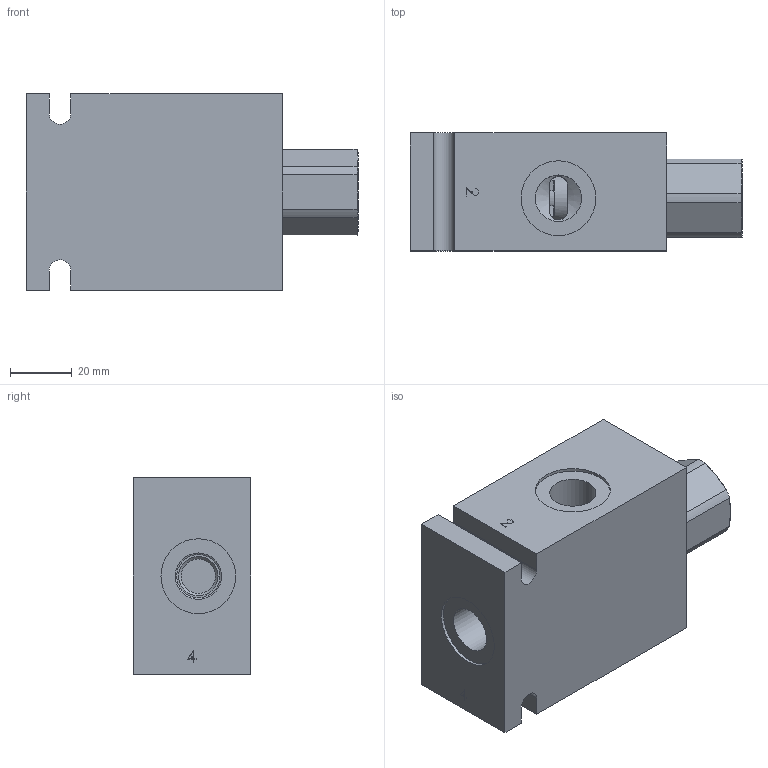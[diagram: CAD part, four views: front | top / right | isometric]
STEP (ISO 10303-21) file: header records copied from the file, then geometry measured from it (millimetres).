
FILE_DESCRIPTION( ( 'Unknown' ), '1' );
FILE_NAME( 'G:/Graphic Design/Graphic Design 2/Data Sheets/PRESSURE CONTROLS/2_STEP/Pressure Compensated Regulator Valves/D-DGPCB00-B4.stp', 'Unknown', ( 'Unknown' ), ( 'Unknown' ), 'PSStep 16.0.42', 'Unknown', ' ' );
FILE_SCHEMA( ( 'AUTOMOTIVE_DESIGN { 1 0 10303 214 1 1 1 1 }' ) );
Length unit declared in the file: millimetre
Products named in the file (14): DGPCB00; DGPCB00-3D Full1; DGPCB00-3D Full2; DGPCB00-3D Full3; DGPCB00-3D Full4; DGPCB00-3D Full5; DGPCB00-3D Full6; DGPCB00-3D Full7; DGPCB00-3D Full8; DGPCB00-3D Full9; DGPCB00-3D Full10; DGPCB00-3D Full11; Assem1; B-DDGB4
Assembly tree (13 placements, depth 3):
  Assem1
    B-DDGB4
    DGPCB00
      DGPCB00-3D Full1
      DGPCB00-3D Full2
      DGPCB00-3D Full3
      DGPCB00-3D Full4
      DGPCB00-3D Full5
      DGPCB00-3D Full6
      DGPCB00-3D Full7
      DGPCB00-3D Full8
      DGPCB00-3D Full9
      DGPCB00-3D Full10
      DGPCB00-3D Full11
Bounding box: 107.35 x 38.1 x 63.5 mm (x, y, z)
Surface area: 40203.3 mm2 (no closed solid volume)
Topology: 0 solids, 332 shells, 332 faces, 1505 edges, 1413 vertices
Faces by surface type: plane 157, cylinder 90, torus 43, cone 42
Full cylindrical faces by diameter (mm): 0.2 x4, 11.11 x1, 12.992 x1, 13.043 x2, 14 x2, 14.275 x1, 14.592 x1, 14.63 x2, 15 x8, 15.735 x2, 15.773 x2, 15.875 x2, 15.9 x1, 16.167 x1, 16.218 x2, 17.323 x3, 17.374 x2, 17.501 x1, 18.91 x2, 18.948 x2, 19.075 x1, 19.622 x1, 20.262 x2, 24.2 x4, 30.175 x1
Entity records: 19010 total; most frequent: CARTESIAN_POINT 5795, DIRECTION 2052, VERTEX_POINT 1386, ORIENTED_EDGE 1382, EDGE_CURVE 1382, AXIS2_PLACEMENT_3D 859, CIRCLE 512, B_SPLINE_CURVE_WITH_KNOTS 488
